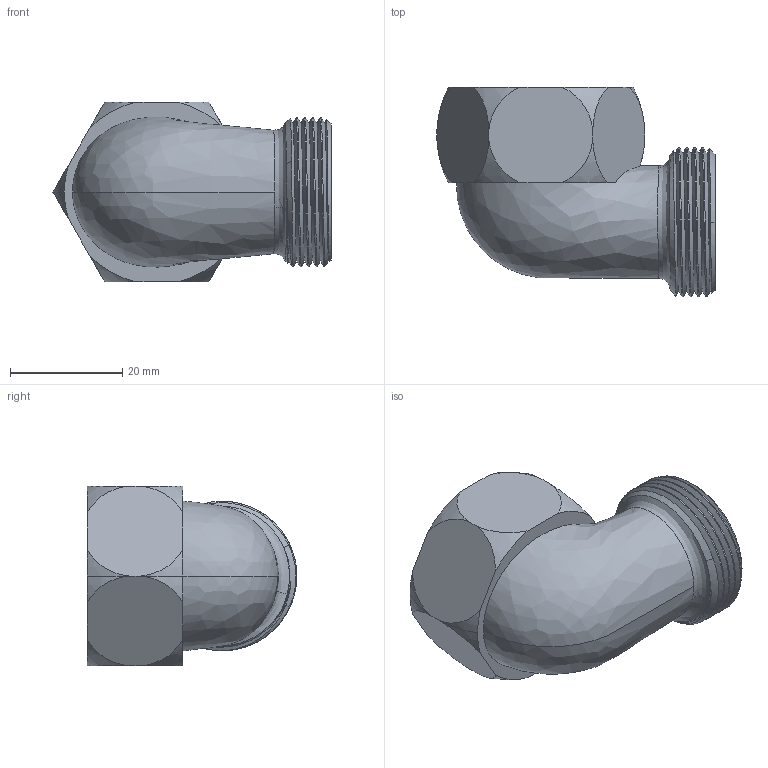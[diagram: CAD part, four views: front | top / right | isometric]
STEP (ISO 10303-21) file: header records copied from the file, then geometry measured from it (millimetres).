
FILE_DESCRIPTION (( 'STEP AP203' ), '1' );
FILE_NAME ('E4096G 34X34.STEP', '2017-10-17T00:10:07', ( '微软用户' ), ( '微软中国' ), 'SwSTEP 2.0', 'SolidWorks 2008', '' );
FILE_SCHEMA (( 'CONFIG_CONTROL_DESIGN' ));
Length unit declared in the file: millimetre
Products named in the file (1): E4096G 34X34
Bounding box: 49.48 x 37.3 x 32 mm (x, y, z)
Volume: 12249.1 mm3; surface area: 10053.2 mm2
Topology: 1 solids, 1 shells, 82 faces, 225 edges, 147 vertices
Faces by surface type: cylinder 30, torus 16, plane 14, bspline 13, cone 9
Entity records: 6508 total; most frequent: CARTESIAN_POINT 4674, ORIENTED_EDGE 450, DIRECTION 270, EDGE_CURVE 225, VERTEX_POINT 147, AXIS2_PLACEMENT_3D 107, EDGE_LOOP 86, ADVANCED_FACE 82
